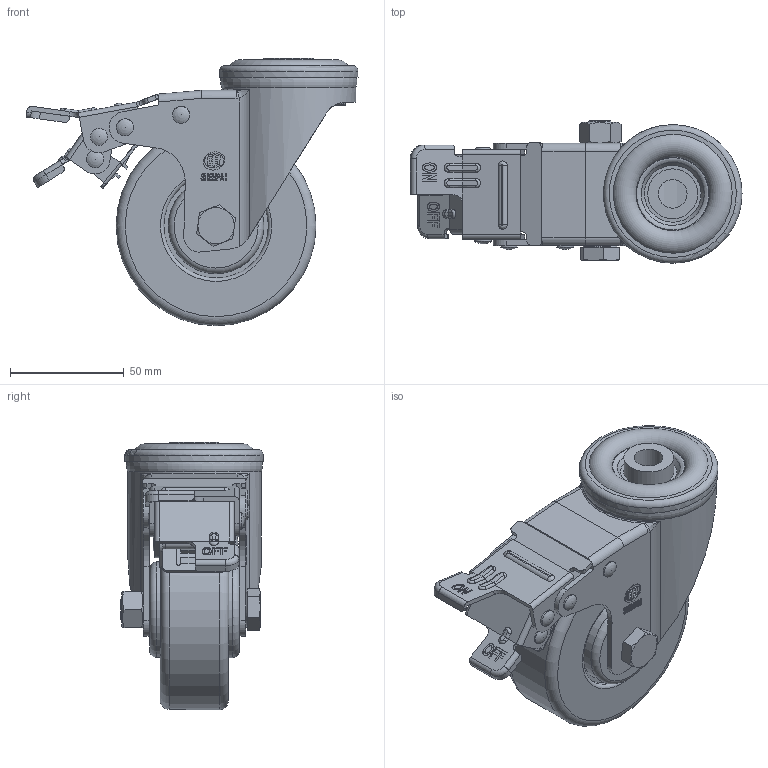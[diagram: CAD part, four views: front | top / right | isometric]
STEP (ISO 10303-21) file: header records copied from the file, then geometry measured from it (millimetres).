
FILE_DESCRIPTION(/* description */ (''),/* implementation_level */ '2;1');
FILE_NAME(/* name */ '20A2C_3,5_F.stp',/* time_stamp */ '2022-10-06T14:29:24+08:00',/* author */ (''),/* organization */ (''),/* preprocessor_version */ 'ST-DEVELOPER v14',/* originating_system */ 'SIEMENS PLM Software NX 8.0',/* authorisation */ '');
FILE_SCHEMA (('AUTOMOTIVE_DESIGN { 1 0 10303 214 3 1 1 1 }'));
Length unit declared in the file: millimetre
Products named in the file (1): 20A2C_3,5_F
Bounding box: 146.2 x 62.75 x 117.77 mm (x, y, z)
Volume: 245339.5 mm3; surface area: 100025.9 mm2
Topology: 1 solids, 2 shells, 1042 faces, 2951 edges, 1944 vertices
Faces by surface type: plane 493, cylinder 302, torus 79, sphere 73, cone 61, bspline 22, extrusion 12
Full cylindrical faces by diameter (mm): 4 x4, 5 x6, 5.2 x16, 7.5 x4, 10 x2, 10.3 x2, 11.2 x2, 12.6 x1, 13.2 x1, 13.6 x3, 18 x1, 20.8 x4, 22 x1, 23.2 x2, 24 x1, 30.122 x1, 33 x2, 41 x2, 42 x2, 45.996 x1, 46 x2, 54 x1, 56 x1, 57.6 x1, 59 x1, 61 x1, 88 x1
Entity records: 38889 total; most frequent: CARTESIAN_POINT 14285, ORIENTED_EDGE 5230, DIRECTION 4716, EDGE_CURVE 2615, AXIS2_PLACEMENT_3D 1793, VERTEX_POINT 1787, EDGE_LOOP 1310, VECTOR 1130
